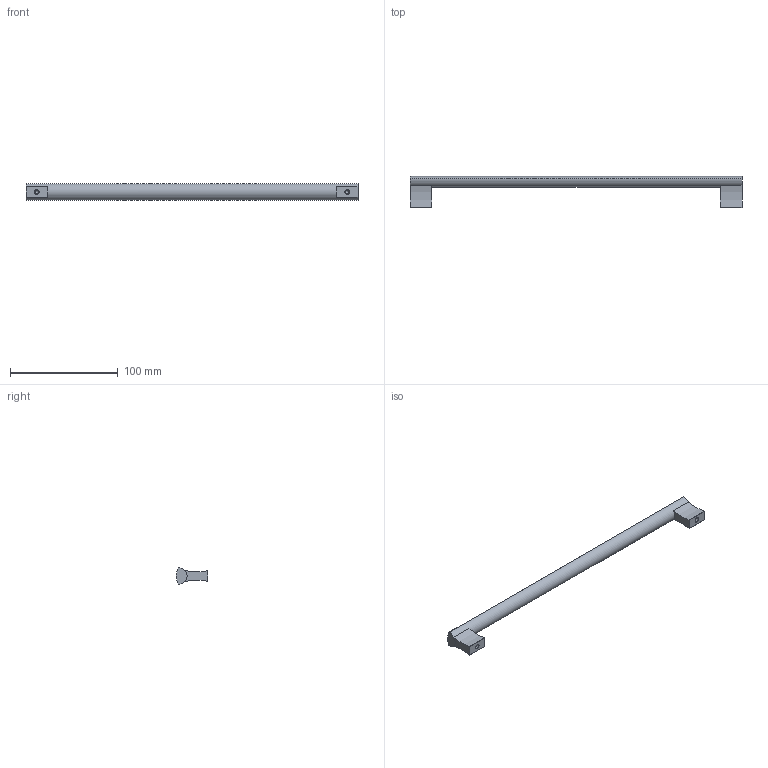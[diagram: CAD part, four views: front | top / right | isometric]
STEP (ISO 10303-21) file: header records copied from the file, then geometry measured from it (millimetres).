
FILE_DESCRIPTION(/* description */ ('Handle 311'),/* implementation_level */ '2;1');
FILE_NAME(/* name */ 'D:\$WorkingFolder\Designs\Meblowka\uchwyty\UA-...-311\UA-B0-311\UA-B0-311288.stp',/* time_stamp */ '2020-11-20T09:50:06+01:00',/* author */ ('ElizaL'),/* organization */ (''),/* preprocessor_version */ 'ST-DEVELOPER v18.1',/* originating_system */ 'Autodesk Inventor 2020',/* authorisation */ '');
FILE_SCHEMA (('AUTOMOTIVE_DESIGN { 1 0 10303 214 3 1 1 }'));
Length unit declared in the file: millimetre
Products named in the file (1): UA-B0-311288
Bounding box: 308 x 29.17 x 15.51 mm (x, y, z)
Volume: 42553.6 mm3; surface area: 16616.6 mm2
Topology: 3 solids, 3 shells, 30 faces, 78 edges, 54 vertices
Faces by surface type: cylinder 18, plane 8, cone 4
Full cylindrical faces by diameter (mm): 3.242 x2, 4.2 x2
Entity records: 1137 total; most frequent: CARTESIAN_POINT 297, DIRECTION 170, ORIENTED_EDGE 152, EDGE_CURVE 76, AXIS2_PLACEMENT_3D 71, VERTEX_POINT 54, CIRCLE 40, EDGE_LOOP 36
